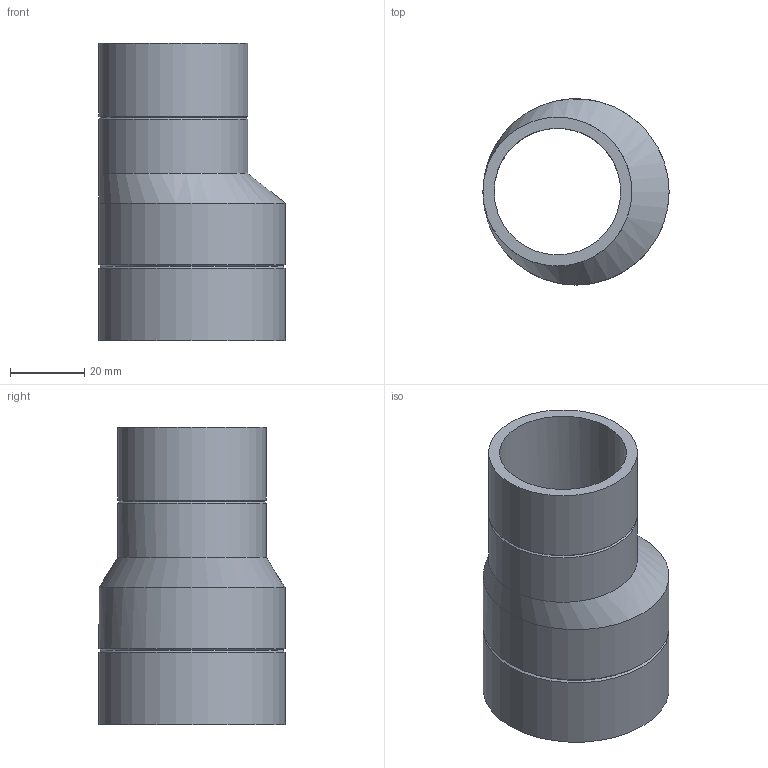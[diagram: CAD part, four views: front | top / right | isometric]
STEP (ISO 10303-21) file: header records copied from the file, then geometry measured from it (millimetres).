
FILE_DESCRIPTION(/* description */ (''),/* implementation_level */ '2;1');
FILE_NAME(/* name */ 'Z:\Geberit\Export\NewStep\361558.stp',/* time_stamp */ '2014-04-01T21:05:58+02:00',/* author */ ('nelson'),/* organization */ (''),/* preprocessor_version */ 'ST-DEVELOPER v15.2',/* originating_system */ 'Autodesk Inventor 2014',/* authorisation */ '');
FILE_SCHEMA (('AUTOMOTIVE_DESIGN { 1 0 10303 214 3 1 1 }'));
Length unit declared in the file: millimetre
Products named in the file (1): 361558
Bounding box: 50 x 50 x 80 mm (x, y, z)
Volume: 31703.5 mm3; surface area: 22574.8 mm2
Topology: 1 solids, 1 shells, 14 faces, 35 edges, 23 vertices
Faces by surface type: cylinder 6, cone 4, bspline 2, plane 2
Full cylindrical faces by diameter (mm): 34 x1, 40 x2, 44 x1, 50 x2
Entity records: 397 total; most frequent: CARTESIAN_POINT 89, DIRECTION 62, ORIENTED_EDGE 40, AXIS2_PLACEMENT_3D 31, EDGE_LOOP 26, EDGE_CURVE 20, CIRCLE 18, VERTEX_POINT 18
